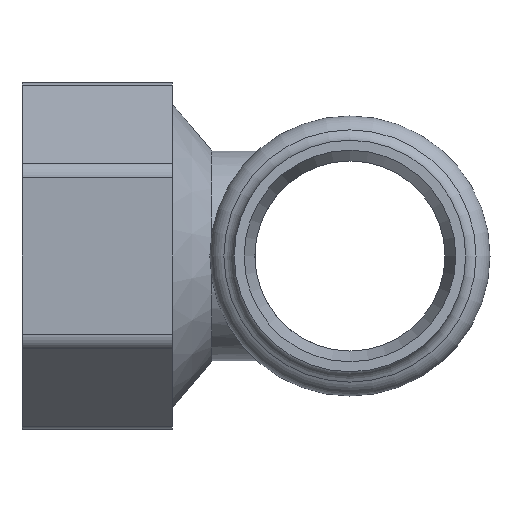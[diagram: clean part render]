
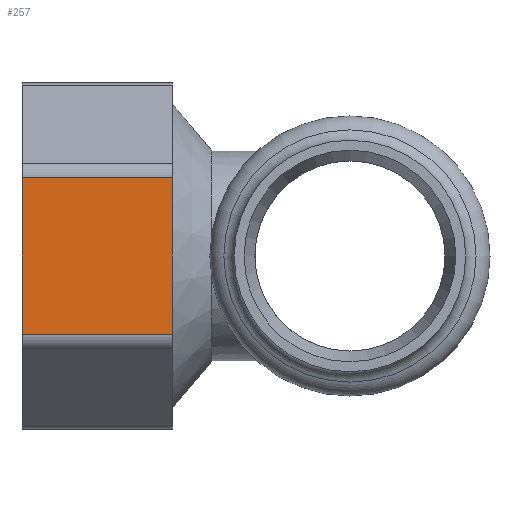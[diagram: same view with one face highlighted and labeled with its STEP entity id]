
A CAD part, left-side view. The second image highlights one B-rep face of the part: STEP entity #257.
In plain terms, the highlighted planar face has unit normal (-1, 0, 0).
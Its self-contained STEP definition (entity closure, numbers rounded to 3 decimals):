
#105=FACE_OUTER_BOUND('',#427,.T.);
#140=PLANE('',#879);
#164=LINE('',#1270,#190);
#182=LINE('',#1338,#208);
#183=LINE('',#1341,#209);
#184=LINE('',#1342,#210);
#190=VECTOR('',#1020,1.);
#208=VECTOR('',#1090,1.);
#209=VECTOR('',#1091,1.);
#210=VECTOR('',#1092,1.);
#257=ADVANCED_FACE('',(#105),#140,.T.);
#427=EDGE_LOOP('',(#550,#551,#552,#553));
#550=ORIENTED_EDGE('',*,*,#731,.T.);
#551=ORIENTED_EDGE('',*,*,#732,.T.);
#552=ORIENTED_EDGE('',*,*,#699,.F.);
#553=ORIENTED_EDGE('',*,*,#733,.T.);
#635=VERTEX_POINT('',#1271);
#636=VERTEX_POINT('',#1272);
#659=VERTEX_POINT('',#1339);
#660=VERTEX_POINT('',#1340);
#699=EDGE_CURVE('',#635,#636,#164,.T.);
#731=EDGE_CURVE('',#659,#660,#182,.T.);
#732=EDGE_CURVE('',#660,#636,#183,.T.);
#733=EDGE_CURVE('',#635,#659,#184,.T.);
#879=AXIS2_PLACEMENT_3D('',#1343,#1093,#1094);
#1020=DIRECTION('',(0.,0.,1.));
#1090=DIRECTION('',(0.,0.,1.));
#1091=DIRECTION('',(0.,1.,0.));
#1092=DIRECTION('',(0.,-1.,0.));
#1093=DIRECTION('',(-1.,0.,0.));
#1094=DIRECTION('',(0.,0.,1.));
#1270=CARTESIAN_POINT('',(-18.4,39.675,-10.623));
#1271=CARTESIAN_POINT('',(-18.4,39.675,-9.469));
#1272=CARTESIAN_POINT('',(-18.4,39.675,9.469));
#1338=CARTESIAN_POINT('',(-18.4,21.475,-10.623));
#1339=CARTESIAN_POINT('',(-18.4,21.475,-9.469));
#1340=CARTESIAN_POINT('',(-18.4,21.475,9.469));
#1341=CARTESIAN_POINT('',(-18.4,21.475,9.469));
#1342=CARTESIAN_POINT('',(-18.4,21.475,-9.469));
#1343=CARTESIAN_POINT('',(-18.4,21.475,-10.623));
